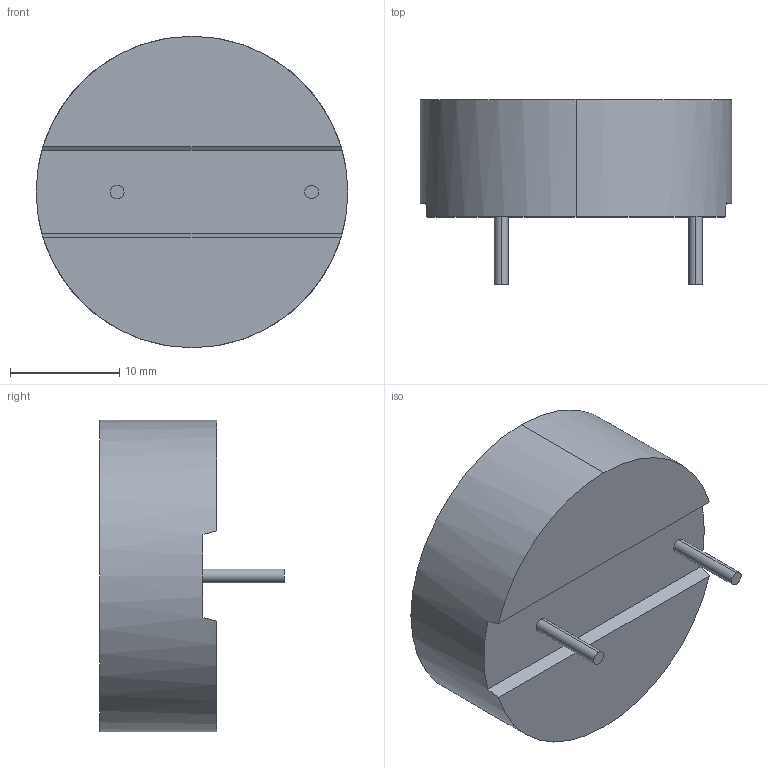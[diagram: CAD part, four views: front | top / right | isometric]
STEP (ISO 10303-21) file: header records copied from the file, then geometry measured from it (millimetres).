
FILE_DESCRIPTION (( 'STEP AP214' ), '1' );
FILE_NAME ('IHTH_IHTH1125KZ 47uH.step', '2014-06-30T14:02:03', ( '' ), ( '' ), 'SwSTEP 2.0', 'SolidWorks 2014', '' );
FILE_SCHEMA (( 'AUTOMOTIVE_DESIGN' ));
Length unit declared in the file: inch
Products named in the file (1): IHTH_IHTH1125KZ  47uH
Bounding box: 28.57 x 16.94 x 28.57 mm (x, y, z)
Volume: 6623.8 mm3; surface area: 2340.6 mm2
Topology: 1 solids, 1 shells, 39 faces, 90 edges, 60 vertices
Faces by surface type: plane 33, cylinder 6
Entity records: 1231 total; most frequent: CARTESIAN_POINT 202, DIRECTION 182, ORIENTED_EDGE 180, EDGE_CURVE 90, LINE 70, VECTOR 70, VERTEX_POINT 60, AXIS2_PLACEMENT_3D 56
